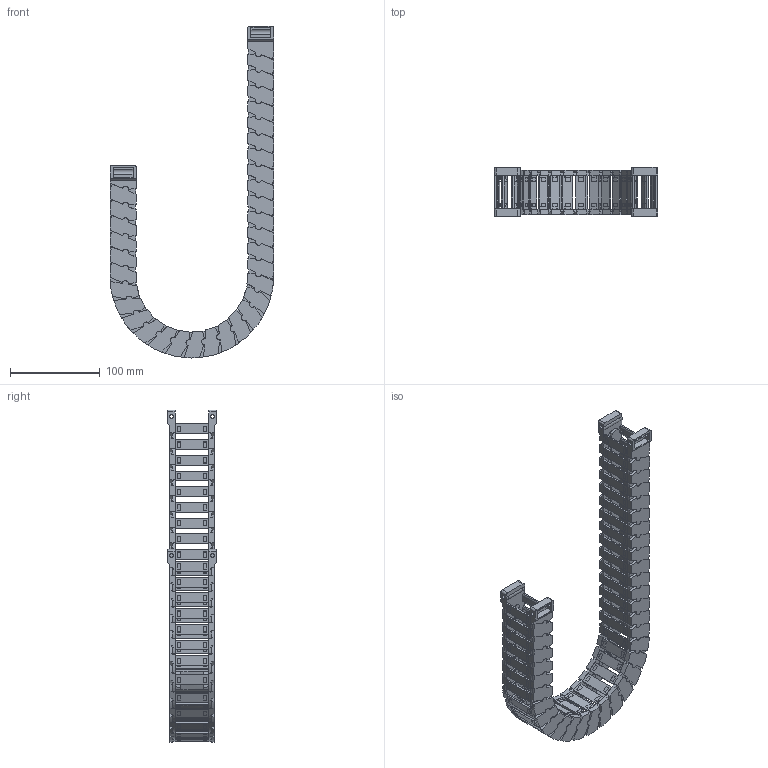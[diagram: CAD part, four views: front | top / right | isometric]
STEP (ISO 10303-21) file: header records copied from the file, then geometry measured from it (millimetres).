
FILE_DESCRIPTION(/* description */ (''),/* implementation_level */ '2;1');
FILE_NAME(/* name */ 'JY22-37-R75.stp',/* time_stamp */ '2026-06-20T14:43:40+08:00',/* author */ (''),/* organization */ (''),/* preprocessor_version */ 'ST-DEVELOPER v19.4',/* originating_system */ 'SIEMENS PLM Software NX2306.5001',/* authorisation */ '');
FILE_SCHEMA (('AP203_CONFIGURATION_CONTROLLED_3D_DESIGN_OF_MECHANICAL_PARTS_AND_ASSEMBLIES_MIM_LF { 1 0 10303 403 2 1 2}'));
Products named in the file (1): 简易图纸_objects
Bounding box: 182.32 x 54.5 x 369.64 mm (x, y, z)
Volume: 271033.8 mm3; surface area: 242602.6 mm2
Topology: 35 solids, 35 shells, 5796 faces, 18770 edges, 12494 vertices
Faces by surface type: plane 4338, cylinder 918, cone 272, bspline 268
Full cylindrical faces by diameter (mm): 4.2 x8, 7 x68, 7.1 x68
Entity records: 215779 total; most frequent: CARTESIAN_POINT 51317, ORIENTED_EDGE 36964, DIRECTION 31874, EDGE_CURVE 18482, LINE 12616, VECTOR 12616, VERTEX_POINT 12350, AXIS2_PLACEMENT_3D 9629
